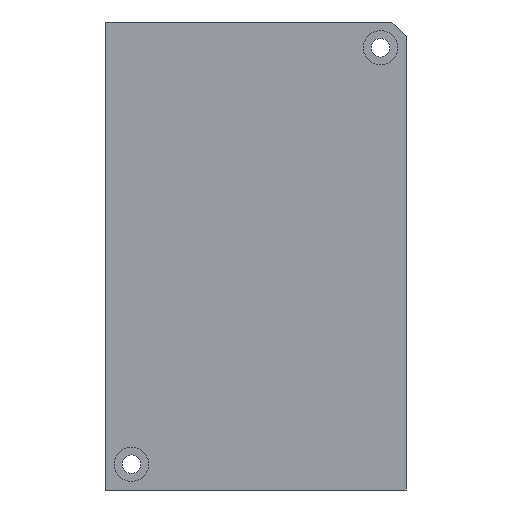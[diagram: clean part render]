
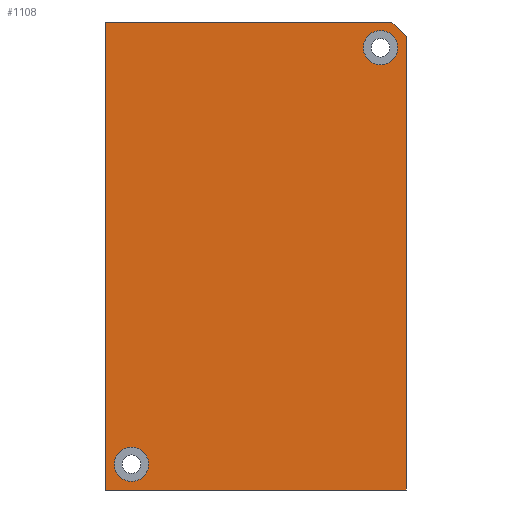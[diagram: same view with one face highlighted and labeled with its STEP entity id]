
A CAD part, front view. The second image highlights one B-rep face of the part: STEP entity #1108.
In plain terms, the highlighted planar face has unit normal (0, -1, 0).
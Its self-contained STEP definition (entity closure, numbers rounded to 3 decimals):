
#28=FACE_BOUND('',#213,.T.);
#29=FACE_BOUND('',#214,.T.);
#73=PLANE('',#1229);
#136=FACE_OUTER_BOUND('',#212,.T.);
#212=EDGE_LOOP('',(#1020,#1021,#1022,#1023,#1024));
#213=EDGE_LOOP('',(#1025));
#214=EDGE_LOOP('',(#1026));
#307=LINE('',#1821,#419);
#312=LINE('',#1831,#424);
#321=LINE('',#1848,#433);
#325=LINE('',#1856,#437);
#326=LINE('',#1858,#438);
#419=VECTOR('',#1504,10.);
#424=VECTOR('',#1511,10.);
#433=VECTOR('',#1528,10.);
#437=VECTOR('',#1540,10.);
#438=VECTOR('',#1543,10.);
#465=CIRCLE('',#1185,1.2);
#468=CIRCLE('',#1190,1.2);
#538=VERTEX_POINT('',#1720);
#541=VERTEX_POINT('',#1729);
#567=VERTEX_POINT('',#1818);
#568=VERTEX_POINT('',#1820);
#571=VERTEX_POINT('',#1828);
#572=VERTEX_POINT('',#1830);
#576=VERTEX_POINT('',#1847);
#659=EDGE_CURVE('',#538,#538,#465,.T.);
#663=EDGE_CURVE('',#541,#541,#468,.T.);
#707=EDGE_CURVE('',#567,#568,#307,.T.);
#712=EDGE_CURVE('',#571,#572,#312,.T.);
#721=EDGE_CURVE('',#572,#576,#321,.T.);
#725=EDGE_CURVE('',#568,#571,#325,.T.);
#726=EDGE_CURVE('',#576,#567,#326,.T.);
#1020=ORIENTED_EDGE('',*,*,#721,.F.);
#1021=ORIENTED_EDGE('',*,*,#712,.F.);
#1022=ORIENTED_EDGE('',*,*,#725,.F.);
#1023=ORIENTED_EDGE('',*,*,#707,.F.);
#1024=ORIENTED_EDGE('',*,*,#726,.F.);
#1025=ORIENTED_EDGE('',*,*,#659,.T.);
#1026=ORIENTED_EDGE('',*,*,#663,.T.);
#1108=ADVANCED_FACE('',(#136,#28,#29),#73,.T.);
#1185=AXIS2_PLACEMENT_3D('',#1721,#1400,#1401);
#1190=AXIS2_PLACEMENT_3D('',#1730,#1411,#1412);
#1229=AXIS2_PLACEMENT_3D('',#1859,#1544,#1545);
#1400=DIRECTION('center_axis',(0.,1.,0.));
#1401=DIRECTION('ref_axis',(-1.,0.,0.));
#1411=DIRECTION('center_axis',(0.,1.,0.));
#1412=DIRECTION('ref_axis',(-1.,0.,0.));
#1504=DIRECTION('',(-1.,0.,0.));
#1511=DIRECTION('',(1.,0.,0.));
#1528=DIRECTION('',(0.707,0.,-0.707));
#1540=DIRECTION('',(0.,0.,1.));
#1543=DIRECTION('',(0.,0.,-1.));
#1544=DIRECTION('center_axis',(0.,-1.,0.));
#1545=DIRECTION('ref_axis',(0.,0.,-1.));
#1720=CARTESIAN_POINT('',(7.275,0.,18.126));
#1721=CARTESIAN_POINT('Origin',(6.075,0.,18.126));
#1729=CARTESIAN_POINT('',(-10.125,0.,-10.974));
#1730=CARTESIAN_POINT('Origin',(-11.325,0.,-10.974));
#1818=CARTESIAN_POINT('',(7.875,0.,-12.774));
#1820=CARTESIAN_POINT('',(-13.125,0.,-12.774));
#1821=CARTESIAN_POINT('',(7.875,0.,-12.774));
#1828=CARTESIAN_POINT('',(-13.125,0.,19.926));
#1830=CARTESIAN_POINT('',(6.875,0.,19.926));
#1831=CARTESIAN_POINT('',(-13.125,0.,19.926));
#1847=CARTESIAN_POINT('',(7.875,0.,18.926));
#1848=CARTESIAN_POINT('',(8.837,0.,17.964));
#1856=CARTESIAN_POINT('',(-13.125,0.,-12.774));
#1858=CARTESIAN_POINT('',(7.875,0.,19.926));
#1859=CARTESIAN_POINT('Origin',(-2.625,0.,3.576));
